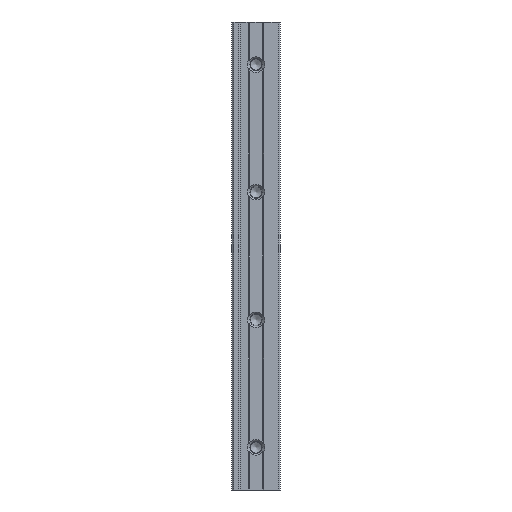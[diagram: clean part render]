
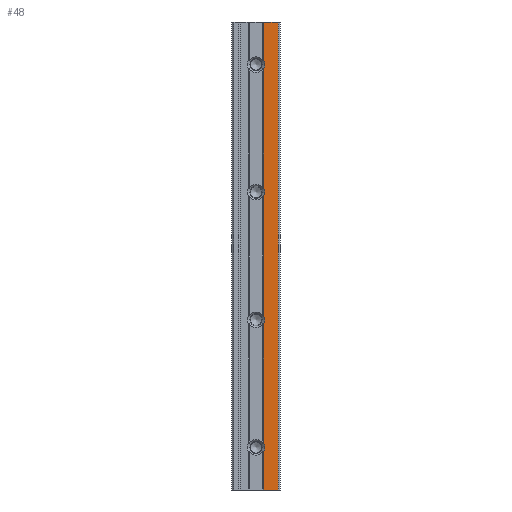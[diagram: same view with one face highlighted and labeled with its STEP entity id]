
A CAD part, front view. The second image highlights one B-rep face of the part: STEP entity #48.
In plain terms, the highlighted planar face has unit normal (0, -1, 0).
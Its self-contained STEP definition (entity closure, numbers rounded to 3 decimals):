
#11 = CARTESIAN_POINT ( 'NONE',  ( 3.7, -20., -81.88 ) ) ;
#48 = ADVANCED_FACE ( 'NONE', ( #1193 ), #1540, .T. ) ;
#53 = ORIENTED_EDGE ( 'NONE', *, *, #1578, .F. ) ;
#93 = ORIENTED_EDGE ( 'NONE', *, *, #1505, .T. ) ;
#105 = CIRCLE ( 'NONE', #1865, 4.15 ) ;
#114 = VECTOR ( 'NONE', #116, 1000. ) ;
#116 = DIRECTION ( 'NONE',  ( 1., 0., 0. ) ) ;
#126 = ORIENTED_EDGE ( 'NONE', *, *, #1129, .F. ) ;
#142 = ORIENTED_EDGE ( 'NONE', *, *, #1077, .T. ) ;
#191 = VERTEX_POINT ( 'NONE', #566 ) ;
#221 = VECTOR ( 'NONE', #2144, 1000. ) ;
#228 = DIRECTION ( 'NONE',  ( 0., 1., 0. ) ) ;
#246 = EDGE_CURVE ( 'NONE', #1525, #1071, #628, .T. ) ;
#254 = VECTOR ( 'NONE', #441, 1000. ) ;
#256 = VERTEX_POINT ( 'NONE', #11 ) ;
#285 = CIRCLE ( 'NONE', #857, 4.15 ) ;
#321 = DIRECTION ( 'NONE',  ( 0., 0., 1. ) ) ;
#357 = CARTESIAN_POINT ( 'NONE',  ( 3.7, -20., 0. ) ) ;
#375 = VERTEX_POINT ( 'NONE', #2181 ) ;
#383 = DIRECTION ( 'NONE',  ( 0., 0., 1. ) ) ;
#389 = ORIENTED_EDGE ( 'NONE', *, *, #1508, .F. ) ;
#421 = EDGE_CURVE ( 'NONE', #1703, #1333, #2311, .T. ) ;
#441 = DIRECTION ( 'NONE',  ( 0., 0., 1. ) ) ;
#471 = CARTESIAN_POINT ( 'NONE',  ( 3.7, -20., -201.88 ) ) ;
#542 = VERTEX_POINT ( 'NONE', #1027 ) ;
#556 = CARTESIAN_POINT ( 'NONE',  ( 3.7, -20., -220. ) ) ;
#566 = CARTESIAN_POINT ( 'NONE',  ( 3.7, -20., -18.12 ) ) ;
#591 = LINE ( 'NONE', #357, #114 ) ;
#621 = CARTESIAN_POINT ( 'NONE',  ( 3.7, -20., -220. ) ) ;
#628 = CIRCLE ( 'NONE', #1208, 4.15 ) ;
#632 = VECTOR ( 'NONE', #321, 1000. ) ;
#647 = EDGE_CURVE ( 'NONE', #1703, #1071, #795, .T. ) ;
#685 = CARTESIAN_POINT ( 'NONE',  ( 3.7, -20., -220. ) ) ;
#690 = LINE ( 'NONE', #2354, #887 ) ;
#709 = DIRECTION ( 'NONE',  ( 0., 0., 1. ) ) ;
#723 = LINE ( 'NONE', #2389, #221 ) ;
#795 = LINE ( 'NONE', #556, #632 ) ;
#817 = VERTEX_POINT ( 'NONE', #2306 ) ;
#818 = DIRECTION ( 'NONE',  ( 0., 0., -1. ) ) ;
#857 = AXIS2_PLACEMENT_3D ( 'NONE', #1185, #228, #2378 ) ;
#867 = LINE ( 'NONE', #621, #1630 ) ;
#887 = VECTOR ( 'NONE', #2101, 1000. ) ;
#914 = CARTESIAN_POINT ( 'NONE',  ( 3.7, -20., -138.12 ) ) ;
#921 = LINE ( 'NONE', #685, #254 ) ;
#925 = CARTESIAN_POINT ( 'NONE',  ( 3.7, -20., -78.12 ) ) ;
#937 = CARTESIAN_POINT ( 'NONE',  ( 0., -20., -200. ) ) ;
#949 = CARTESIAN_POINT ( 'NONE',  ( 3.7, -20., -220. ) ) ;
#966 = VERTEX_POINT ( 'NONE', #1111 ) ;
#1021 = DIRECTION ( 'NONE',  ( -1., 0., 0. ) ) ;
#1027 = CARTESIAN_POINT ( 'NONE',  ( 3.7, -20., -141.88 ) ) ;
#1054 = DIRECTION ( 'NONE',  ( 0., -1., 0. ) ) ;
#1071 = VERTEX_POINT ( 'NONE', #471 ) ;
#1077 = EDGE_CURVE ( 'NONE', #1877, #542, #285, .T. ) ;
#1111 = CARTESIAN_POINT ( 'NONE',  ( 3.7, -20., -21.88 ) ) ;
#1129 = EDGE_CURVE ( 'NONE', #375, #817, #591, .T. ) ;
#1179 = LINE ( 'NONE', #949, #2371 ) ;
#1185 = CARTESIAN_POINT ( 'NONE',  ( 0., -20., -140. ) ) ;
#1193 = FACE_OUTER_BOUND ( 'NONE', #1277, .T. ) ;
#1208 = AXIS2_PLACEMENT_3D ( 'NONE', #937, #2112, #1858 ) ;
#1214 = ORIENTED_EDGE ( 'NONE', *, *, #246, .T. ) ;
#1231 = ORIENTED_EDGE ( 'NONE', *, *, #1323, .F. ) ;
#1254 = CARTESIAN_POINT ( 'NONE',  ( 3.7, -20., -198.12 ) ) ;
#1257 = DIRECTION ( 'NONE',  ( 0., 1., 0. ) ) ;
#1277 = EDGE_LOOP ( 'NONE', ( #1214, #1992, #1855, #1454, #126, #1231, #93, #53, #1718, #389, #142, #2388 ) ) ;
#1293 = CARTESIAN_POINT ( 'NONE',  ( 3.7, -20., -220. ) ) ;
#1323 = EDGE_CURVE ( 'NONE', #191, #375, #921, .T. ) ;
#1333 = VERTEX_POINT ( 'NONE', #2282 ) ;
#1454 = ORIENTED_EDGE ( 'NONE', *, *, #2361, .T. ) ;
#1505 = EDGE_CURVE ( 'NONE', #191, #966, #105, .T. ) ;
#1508 = EDGE_CURVE ( 'NONE', #1877, #256, #1179, .T. ) ;
#1525 = VERTEX_POINT ( 'NONE', #1254 ) ;
#1540 = PLANE ( 'NONE',  #2025 ) ;
#1560 = CIRCLE ( 'NONE', #1666, 4.15 ) ;
#1578 = EDGE_CURVE ( 'NONE', #1988, #966, #723, .T. ) ;
#1609 = CARTESIAN_POINT ( 'NONE',  ( 3.7, -20., -220. ) ) ;
#1630 = VECTOR ( 'NONE', #383, 1000. ) ;
#1666 = AXIS2_PLACEMENT_3D ( 'NONE', #2257, #1257, #1021 ) ;
#1677 = DIRECTION ( 'NONE',  ( -1., 0., 0. ) ) ;
#1703 = VERTEX_POINT ( 'NONE', #1609 ) ;
#1718 = ORIENTED_EDGE ( 'NONE', *, *, #2251, .T. ) ;
#1807 = DIRECTION ( 'NONE',  ( 1., 0., 0. ) ) ;
#1855 = ORIENTED_EDGE ( 'NONE', *, *, #421, .T. ) ;
#1858 = DIRECTION ( 'NONE',  ( -1., 0., 0. ) ) ;
#1865 = AXIS2_PLACEMENT_3D ( 'NONE', #2186, #1934, #1677 ) ;
#1877 = VERTEX_POINT ( 'NONE', #914 ) ;
#1934 = DIRECTION ( 'NONE',  ( 0., 1., 0. ) ) ;
#1988 = VERTEX_POINT ( 'NONE', #925 ) ;
#1992 = ORIENTED_EDGE ( 'NONE', *, *, #647, .F. ) ;
#2014 = EDGE_CURVE ( 'NONE', #1525, #542, #867, .T. ) ;
#2025 = AXIS2_PLACEMENT_3D ( 'NONE', #1293, #1054, #818 ) ;
#2054 = CARTESIAN_POINT ( 'NONE',  ( 3.7, -20., -220. ) ) ;
#2101 = DIRECTION ( 'NONE',  ( 0., 0., 1. ) ) ;
#2112 = DIRECTION ( 'NONE',  ( 0., 1., 0. ) ) ;
#2144 = DIRECTION ( 'NONE',  ( 0., 0., 1. ) ) ;
#2181 = CARTESIAN_POINT ( 'NONE',  ( 3.7, -20., 0. ) ) ;
#2186 = CARTESIAN_POINT ( 'NONE',  ( 0., -20., -20. ) ) ;
#2251 = EDGE_CURVE ( 'NONE', #1988, #256, #1560, .T. ) ;
#2257 = CARTESIAN_POINT ( 'NONE',  ( 0., -20., -80. ) ) ;
#2275 = VECTOR ( 'NONE', #1807, 1000. ) ;
#2282 = CARTESIAN_POINT ( 'NONE',  ( 10.4, -20., -220. ) ) ;
#2306 = CARTESIAN_POINT ( 'NONE',  ( 10.4, -20., 0. ) ) ;
#2311 = LINE ( 'NONE', #2054, #2275 ) ;
#2354 = CARTESIAN_POINT ( 'NONE',  ( 10.4, -20., -220. ) ) ;
#2361 = EDGE_CURVE ( 'NONE', #1333, #817, #690, .T. ) ;
#2371 = VECTOR ( 'NONE', #709, 1000. ) ;
#2378 = DIRECTION ( 'NONE',  ( -1., 0., 0. ) ) ;
#2388 = ORIENTED_EDGE ( 'NONE', *, *, #2014, .F. ) ;
#2389 = CARTESIAN_POINT ( 'NONE',  ( 3.7, -20., -220. ) ) ;
